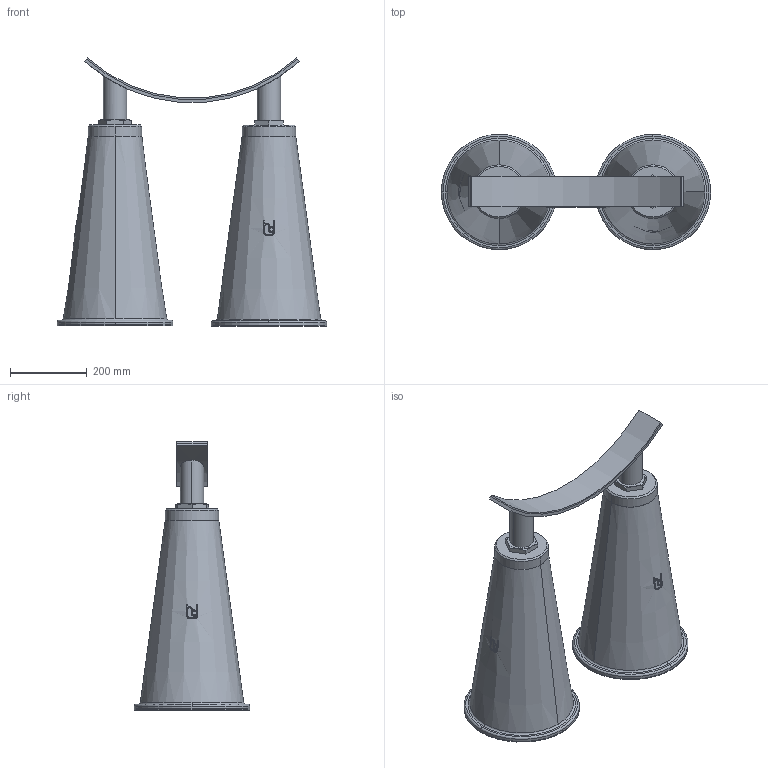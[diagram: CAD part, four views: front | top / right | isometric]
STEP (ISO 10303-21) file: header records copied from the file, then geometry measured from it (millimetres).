
FILE_DESCRIPTION(('STEP AP214'),'1');
FILE_NAME('RSRFC-DUO_DN800.stp','2018-06-27T11:39:11',(' '),(' '),'Spatial InterOp 3D',' ',' ');
FILE_SCHEMA(('automotive_design'));
Length unit declared in the file: millimetre
Products named in the file (10): 1; 2; 3; 4; 5; 6; 7; 8; 9; 10
Bounding box: 700 x 300 x 697.03 mm (x, y, z)
Volume: 37978188.2 mm3; surface area: 1561853 mm2
Topology: 10 solids, 10 shells, 190 faces, 476 edges, 316 vertices
Faces by surface type: plane 82, cylinder 66, cone 34, torus 8
Entity records: 8823 total; most frequent: CARTESIAN_POINT 2576, ORIENTED_EDGE 952, DIRECTION 942, EDGE_CURVE 476, AXIS2_PLACEMENT_3D 366, VERTEX_POINT 316, LINE 210, VECTOR 210
